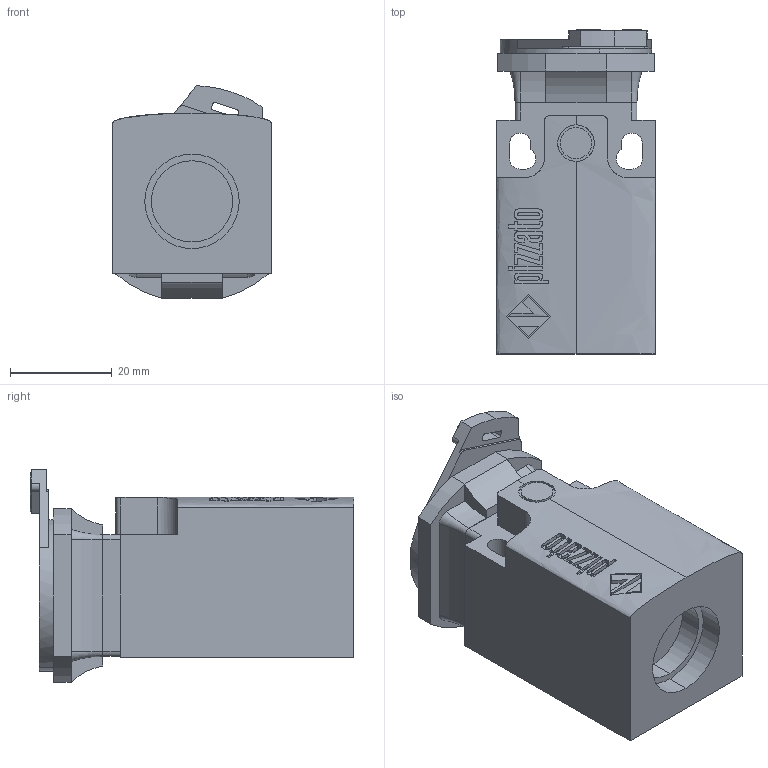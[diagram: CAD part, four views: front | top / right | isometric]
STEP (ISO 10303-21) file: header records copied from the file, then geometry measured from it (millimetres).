
FILE_DESCRIPTION (( 'STEP AP203' ), '1' );
FILE_NAME ('ZF_STEP_FK_xE2.STEP', '2024-01-09T16:26:01', ( '' ), ( '' ), 'SwSTEP 2.0', 'SolidWorks 2020', '' );
FILE_SCHEMA (( 'CONFIG_CONTROL_DESIGN' ));
Length unit declared in the file: millimetre
Products named in the file (7): Pizzato_pistoncino_TEE2_3404; Pizzato_Custodia_FK_3dweb; ZF_STEP_FK_xE2; Pizzato_TEE2_fissaggio_20512; Pizzato_TEE2_base_20511; ZF_STEP_VF_TEE2
Assembly tree (6 placements, depth 3):
  ZF_STEP_FK_xE2
    Pizzato_Custodia_FK_3dweb
      Pizzato_Custodia_FK_3dweb
    ZF_STEP_VF_TEE2
      Pizzato_TEE2_base_20511
      Pizzato_TEE2_fissaggio_20512
      Pizzato_pistoncino_TEE2_3404
Bounding box: 31.2 x 63.8 x 41.88 mm (x, y, z)
Volume: 48293.7 mm3; surface area: 16564.3 mm2
Topology: 4 solids, 4 shells, 527 faces, 1410 edges, 933 vertices
Faces by surface type: plane 302, bspline 126, cylinder 91, torus 4, cone 2, sphere 2
Entity records: 21258 total; most frequent: CARTESIAN_POINT 8201, ORIENTED_EDGE 2820, DIRECTION 2105, EDGE_CURVE 1410, VERTEX_POINT 933, LINE 883, VECTOR 883, AXIS2_PLACEMENT_3D 611
